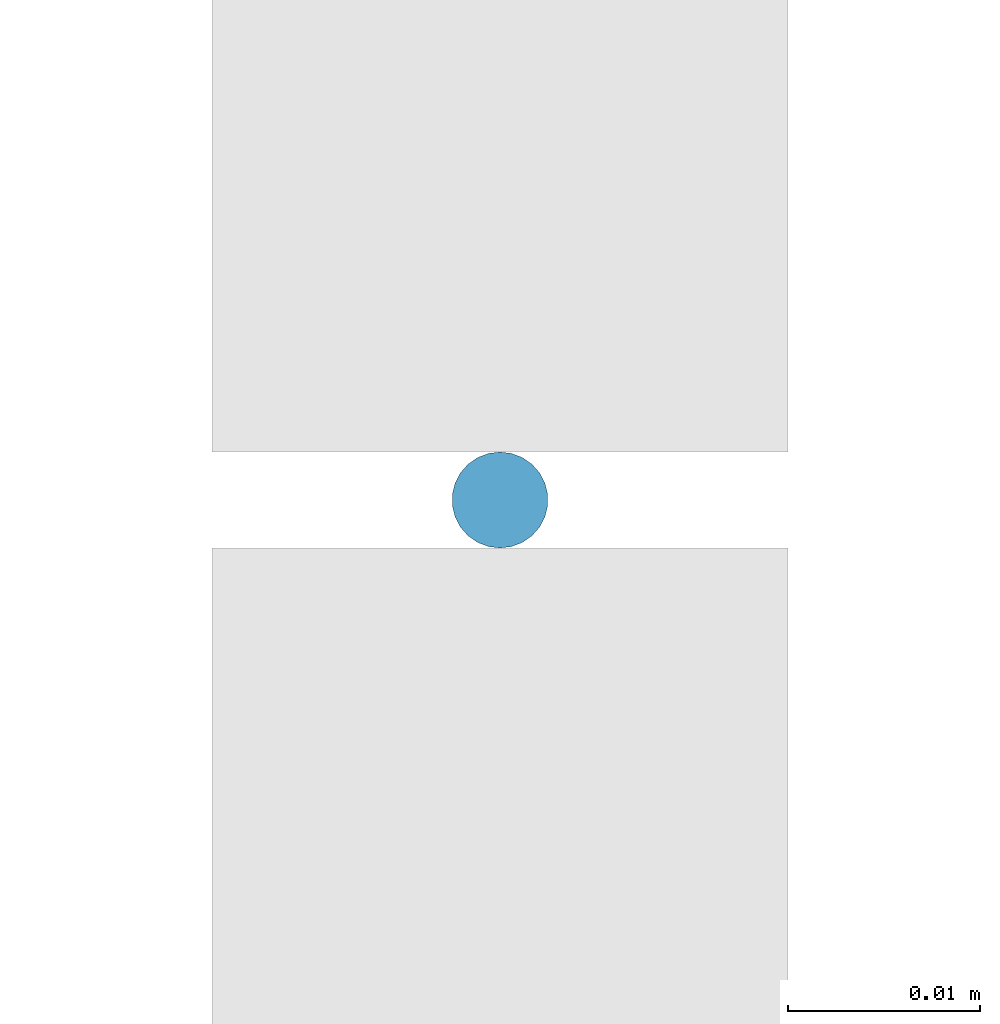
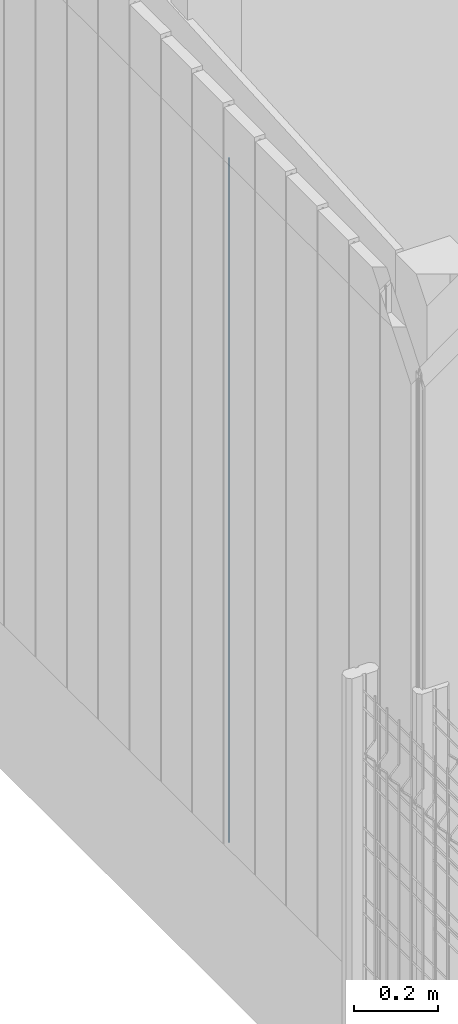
# One storey, part 31 of 81: 1 member, 1 element without a shape of its own.
"""IFC2X3 building model written with IfcOpenShell, lengths in metres."""

from ifc_helpers import new_model, entity, si_unit, converted_unit, derived_unit, direction, frame, frame_2d, origin, place, context, subcontext, project, spatial, circle, extrude, source, transform, mapped, material, type_object, type_shapes, element, aggregate, save


model = new_model("IFC2X3")

# Units and contexts
model_context = context("Model", 3, precision=1e-05, world=origin(), true_north=direction((6.12303176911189e-17, 1.0)))
body_context = subcontext(model_context, "Body", "Model", "MODEL_VIEW")
ifc_project = project(units=[si_unit("LENGTHUNIT", "METRE"), si_unit("AREAUNIT", "SQUARE_METRE"), si_unit("VOLUMEUNIT", "CUBIC_METRE"), converted_unit("PLANEANGLEUNIT", "DEGREE", entity("IfcRatioMeasure", 0.0174532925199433), si_unit("PLANEANGLEUNIT", "RADIAN"), dimensions=[0, 0, 0, 0, 0, 0, 0]), si_unit("MASSUNIT", "GRAM", prefix="KILO"), derived_unit("MASSDENSITYUNIT", [(si_unit("MASSUNIT", "GRAM", prefix="KILO"), 1), (si_unit("LENGTHUNIT", "METRE"), -3)]), derived_unit("MOMENTOFINERTIAUNIT", [(si_unit("LENGTHUNIT", "METRE"), 4)]), si_unit("TIMEUNIT", "SECOND"), si_unit("FREQUENCYUNIT", "HERTZ"), si_unit("THERMODYNAMICTEMPERATUREUNIT", "DEGREE_CELSIUS"), derived_unit("THERMALTRANSMITTANCEUNIT", [(si_unit("MASSUNIT", "GRAM", prefix="KILO"), 1), (si_unit("THERMODYNAMICTEMPERATUREUNIT", "KELVIN"), -1), (si_unit("TIMEUNIT", "SECOND"), -3)]), derived_unit("VOLUMETRICFLOWRATEUNIT", [(si_unit("LENGTHUNIT", "METRE"), 3), (si_unit("TIMEUNIT", "SECOND"), -1)]), si_unit("ELECTRICCURRENTUNIT", "AMPERE"), si_unit("ELECTRICVOLTAGEUNIT", "VOLT"), si_unit("POWERUNIT", "WATT"), si_unit("FORCEUNIT", "NEWTON", prefix="KILO"), si_unit("ILLUMINANCEUNIT", "LUX"), si_unit("LUMINOUSFLUXUNIT", "LUMEN"), si_unit("LUMINOUSINTENSITYUNIT", "CANDELA"), derived_unit("USERDEFINED", [(si_unit("MASSUNIT", "GRAM", prefix="KILO"), -1), (si_unit("LENGTHUNIT", "METRE"), -2), (si_unit("TIMEUNIT", "SECOND"), 3), (si_unit("LUMINOUSFLUXUNIT", "LUMEN"), 1)]), derived_unit("LINEARVELOCITYUNIT", [(si_unit("LENGTHUNIT", "METRE"), 1), (si_unit("TIMEUNIT", "SECOND"), -1)]), si_unit("PRESSUREUNIT", "PASCAL"), derived_unit("USERDEFINED", [(si_unit("LENGTHUNIT", "METRE"), -2), (si_unit("MASSUNIT", "GRAM", prefix="KILO"), 1), (si_unit("TIMEUNIT", "SECOND"), -2)]), derived_unit("LINEARFORCEUNIT", [(si_unit("MASSUNIT", "GRAM", prefix="KILO"), 1), (si_unit("LENGTHUNIT", "METRE"), 1), (si_unit("TIMEUNIT", "SECOND"), -2), (si_unit("LENGTHUNIT", "METRE"), -1)]), derived_unit("PLANARFORCEUNIT", [(si_unit("MASSUNIT", "GRAM", prefix="KILO"), 1), (si_unit("LENGTHUNIT", "METRE"), 1), (si_unit("TIMEUNIT", "SECOND"), -2), (si_unit("LENGTHUNIT", "METRE"), -2)])], contexts=[model_context])

# Site, building, storey
site_placement = place(None, origin())
site = spatial("IfcSite", under=ifc_project, at=site_placement, Name="Surface", CompositionType="ELEMENT")
building_placement = place(site_placement, origin())
building = spatial("IfcBuilding", under=site, at=building_placement, CompositionType="ELEMENT")
storey_placement = place(building_placement, origin())
storey = spatial("IfcBuildingStorey", under=building, at=storey_placement, Name="01 RDC", CompositionType="ELEMENT", Elevation=-1.94916083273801e-14)

# Curtain wall, member
curtain_wall_type = type_object("IfcCurtainWallType", Name="Mur-rideau:1m x 2m", PredefinedType="NOTDEFINED")
curtain_wall_placement = place(storey_placement, origin())
curtain_wall = element("IfcCurtainWall", 1, at=curtain_wall_placement, inside=storey, type_object=curtain_wall_type, Name="Mur-rideau:1m x 2m", ObjectType="Mur-rideau:1m x 2m")
ifc_material = material(Name="Aluminium - Vert")
member_type = type_object("IfcMemberType", Name="Meneau circulaire:R-30 mm", PredefinedType="MULLION", material=ifc_material)
shared_shape = source(origin(), body_context, "Body", "SweptSolid", [
    extrude(circle(Radius=0.0025, at=frame_2d((-8.37005581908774e-27, 3.23452349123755e-15), x_axis=(1.0, 0.0))), frame((0.0, 0.0, -2.0), z_axis=(0.0, 0.0, 1.0), x_axis=(-1.0, 0.0, 0.0)), (0.0, 0.0, 1.0), 2.0),
])
type_shapes(member_type, [shared_shape])
member_placement = place(storey_placement, frame((5.45983615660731, -5.40721095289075, 0.3), z_axis=(0.0, 0.0, -1.0), x_axis=(0.0, 1.0, 0.0)))
member = element("IfcMember", 2, at=member_placement, type_object=member_type, material=ifc_material, Name="Meneau circulaire:R-30 mm", ObjectType="Meneau circulaire:R-30 mm", context=body_context, shape_type="MappedRepresentation", body=[
    mapped(shared_shape, transform((0.0, 0.0, 0.0), scale=1.0)),
])
aggregate(curtain_wall, [member])

save(model, "model.ifc")
